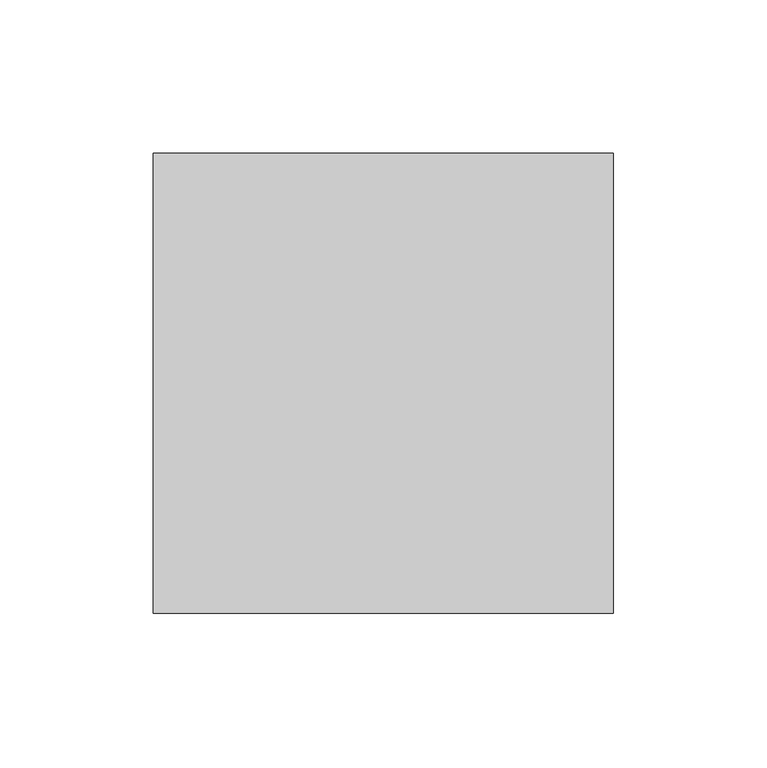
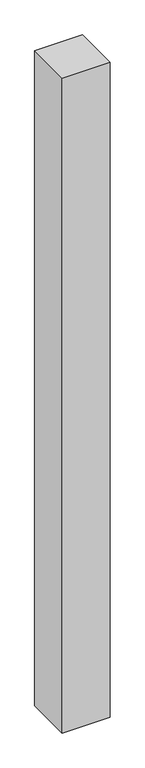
"""IFC4 building model written with IfcOpenShell, lengths in millimetres: member geometry, Угловой L-импост : Угловой L-импост."""

from ifc_helpers import new_model, si_unit, frame, origin, place, context, project, spatial, polyline, outline, extrude, source, transform, mapped, element, save


def member_89892fbc(model_context):
    return source(origin(), model_context, "Body", "SweptSolid", [
        extrude(outline(polyline([(-75.0, -75.0), (-75.0, 75.0), (75.0, 75.0), (75.0, -75.0), (-75.0, -75.0)])), frame((0.0, 0.0, -2175.0), z_axis=(0.0, 0.0, 1.0), x_axis=(1.0, 0.0, 0.0)), (0.0, 0.0, 1.0), 2175.0),
    ])


if __name__ == "__main__":
    model = new_model("IFC4")
    model_context = context("Model", 3, world=origin())
    ifc_project = project(units=[si_unit("LENGTHUNIT", "METRE", prefix="MILLI")], contexts=[model_context])
    site = spatial("IfcSite", under=ifc_project)
    building = spatial("IfcBuilding", under=site)
    placement = place(None, origin())
    member_shape = member_89892fbc(model_context)
    element("IfcMember", 1, ObjectType="Угловой L-импост : Угловой L-импост", at=placement, inside=building, context=model_context, shape_type="MappedRepresentation", body=[
        mapped(member_shape, transform((0.0, 0.0, 0.0), x_axis=(1.0, 0.0, 0.0), y_axis=(0.0, 1.0, 0.0), z_axis=(0.0, 0.0, 1.0))),
    ])
    save(model, "model.ifc")
